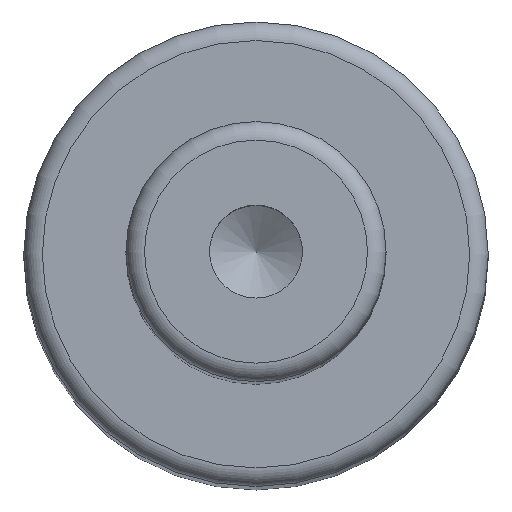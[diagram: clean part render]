
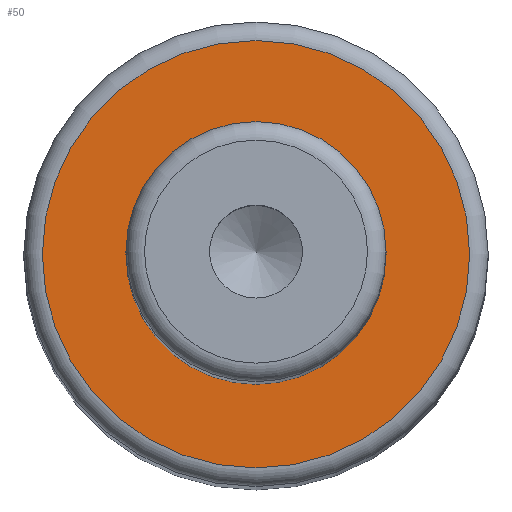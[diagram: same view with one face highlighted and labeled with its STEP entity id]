
A CAD part, top view. The second image highlights one B-rep face of the part: STEP entity #50.
In plain terms, the highlighted planar face has unit normal (0, 0, 1).
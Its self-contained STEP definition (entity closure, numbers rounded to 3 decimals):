
#40=PLANE('',#179);
#50=ADVANCED_FACE('',(#72,#73),#40,.F.);
#72=FACE_BOUND('',#96,.T.);
#73=FACE_BOUND('',#97,.T.);
#96=EDGE_LOOP('',(#118));
#97=EDGE_LOOP('',(#119));
#118=ORIENTED_EDGE('',*,*,#149,.F.);
#119=ORIENTED_EDGE('',*,*,#148,.T.);
#135=VERTEX_POINT('',#256);
#136=VERTEX_POINT('',#259);
#148=EDGE_CURVE('',#135,#135,#159,.T.);
#149=EDGE_CURVE('',#136,#136,#160,.T.);
#159=CIRCLE('',#176,7.);
#160=CIRCLE('',#178,11.5);
#176=AXIS2_PLACEMENT_3D('',#255,#213,#214);
#178=AXIS2_PLACEMENT_3D('',#258,#217,#218);
#179=AXIS2_PLACEMENT_3D('',#260,#219,#220);
#213=DIRECTION('',(0.,0.,-1.));
#214=DIRECTION('',(-1.,0.,0.));
#217=DIRECTION('',(0.,0.,-1.));
#218=DIRECTION('',(-1.,0.,0.));
#219=DIRECTION('',(0.,0.,-1.));
#220=DIRECTION('',(-1.,0.,0.));
#255=CARTESIAN_POINT('',(0.,0.,109.));
#256=CARTESIAN_POINT('',(-7.,0.,109.));
#258=CARTESIAN_POINT('',(0.,0.,109.));
#259=CARTESIAN_POINT('',(-11.5,0.,109.));
#260=CARTESIAN_POINT('',(7.,0.,109.));
